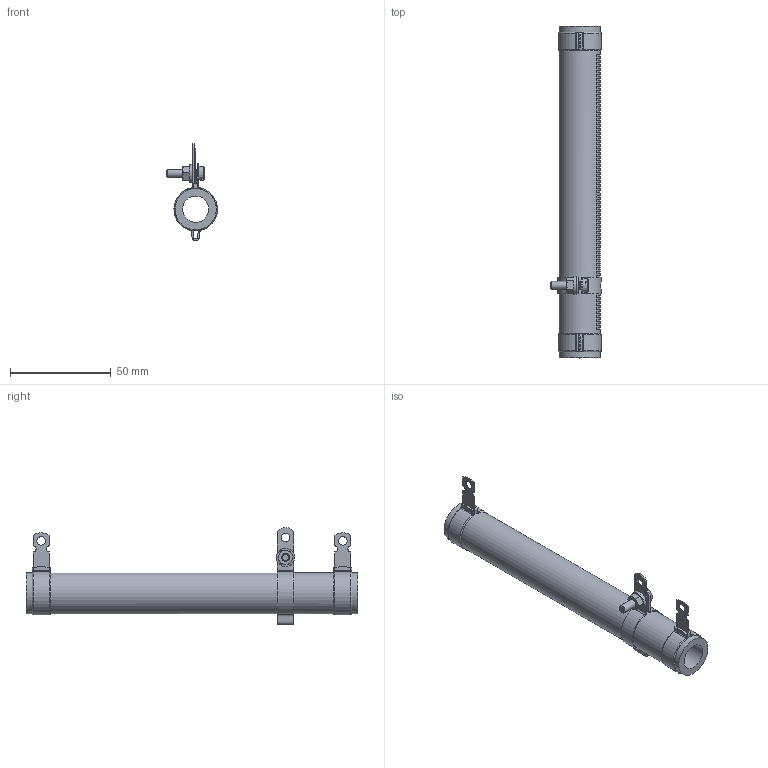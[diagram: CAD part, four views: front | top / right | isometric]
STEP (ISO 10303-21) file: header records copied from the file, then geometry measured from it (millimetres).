
FILE_DESCRIPTION(/* description */ (''),/* implementation_level */ '2;1');
FILE_NAME(/* name */ 'C:\_Vault\Dati\CATALOGO\RCA-RSA\R 25-1000\3D\RCAR 100.stp',/* time_stamp */ '2014-03-18T17:38:44+01:00',/* author */ ('stefano'),/* organization */ (''),/* preprocessor_version */ 'ST-DEVELOPER v15.2',/* originating_system */ 'Autodesk Inventor 2014',/* authorisation */ '');
FILE_SCHEMA (('AUTOMOTIVE_DESIGN { 1 0 10303 214 3 1 1 }'));
Length unit declared in the file: millimetre
Products named in the file (1): RCAR 100
Bounding box: 25.25 x 165 x 48.2 mm (x, y, z)
Volume: 34153.4 mm3; surface area: 20293.3 mm2
Topology: 1 solids, 1 shells, 468 faces, 1130 edges, 739 vertices
Faces by surface type: plane 321, cylinder 113, cone 16, torus 14, bspline 4
Full cylindrical faces by diameter (mm): 3.571 x1, 4 x2, 4.2 x5, 4.3 x1, 9 x1, 13 x1, 20.5 x3
Entity records: 14307 total; most frequent: CARTESIAN_POINT 2693, DIRECTION 2382, ORIENTED_EDGE 2200, EDGE_CURVE 1100, AXIS2_PLACEMENT_3D 869, VERTEX_POINT 728, LINE 644, VECTOR 644
